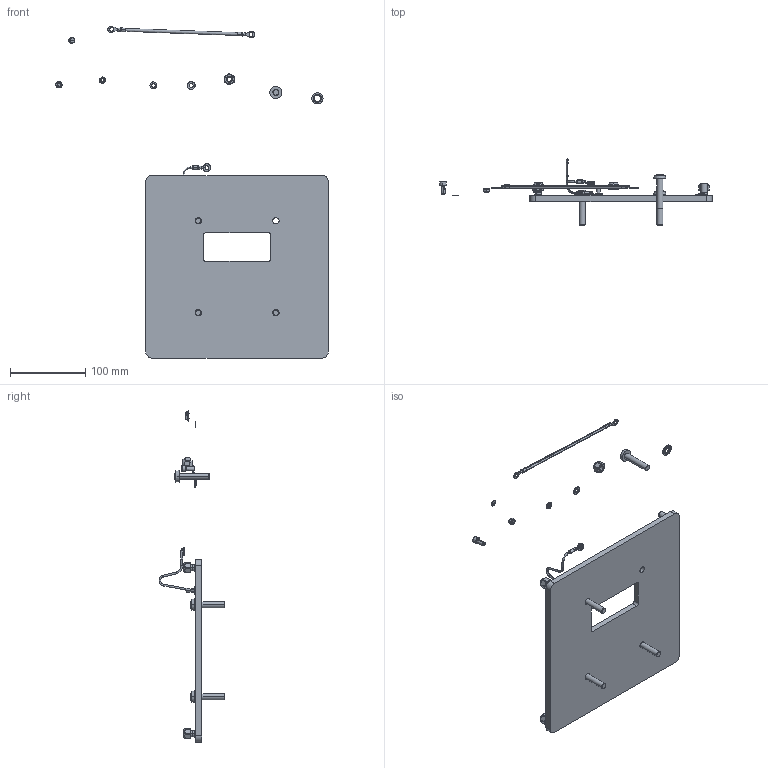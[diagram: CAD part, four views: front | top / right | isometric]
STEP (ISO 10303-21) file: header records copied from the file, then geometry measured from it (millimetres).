
FILE_DESCRIPTION((''),'2;1');
FILE_NAME('9806000099_ASM','2020-11-09T09:43:10',('silke.otte'),(''),'CREO PARAMETRIC BY PTC INC, 2018300','CREO PARAMETRIC BY PTC INC, 2018300','');
FILE_SCHEMA(('AUTOMOTIVE_DESIGN { 1 0 10303 214 1 1 1 1 }'));
Length unit declared in the file: millimetre
Products named in the file (20): 9511000074; VG00173-46-01; 9263079000; 9511000074_ASM; 9281895000; 9262106000; 9411151-01_AF0; 9411151-02_AF0; 9411151000_MCO_AF0_ASM; 9412107000; 9411080000_MCO_ASM; 9411151000_FLEX_BASE_ADAP_PL; 9411080000_FLEX_BASE_ASM; 9262012000; 9281838000; 9261308000; 9404237000; 9261462000; 9262150000; 9806000099_ASM
Assembly tree (37 placements, depth 4):
  9806000099_ASM
    9511000074_ASM
      9511000074
      VG00173-46-01  x4
      9263079000
    9281895000  x4
    9262106000  x3
    9411080000_MCO_ASM
      9411151000_MCO_AF0_ASM
        9411151-01_AF0
        9411151-02_AF0
      9412107000  x2
    9411080000_FLEX_BASE_ASM
      9411151000_FLEX_BASE_ADAP_PL
      9412107000  x2
    9262012000  x2
    9281838000
    9261308000
    9404237000
    9261462000  x4
    9262150000  x4
Bounding box: 361.56 x 87.41 x 440.37 mm (x, y, z)
Volume: 462481.2 mm3; surface area: 145982.2 mm2
Topology: 33 solids, 47 shells, 647 faces, 1508 edges, 956 vertices
Faces by surface type: cylinder 268, plane 223, cone 124, torus 20, sphere 8, bspline 4
Entity records: 20435 total; most frequent: CARTESIAN_POINT 2701, DIRECTION 1907, ORIENTED_EDGE 1322, PROPERTY_DEFINITION 1159, REPRESENTATION 1139, PROPERTY_DEFINITION_REPRESENTATION 1139, DESCRIPTIVE_REPRESENTATION_ITEM 953, GENERAL_PROPERTY 944
